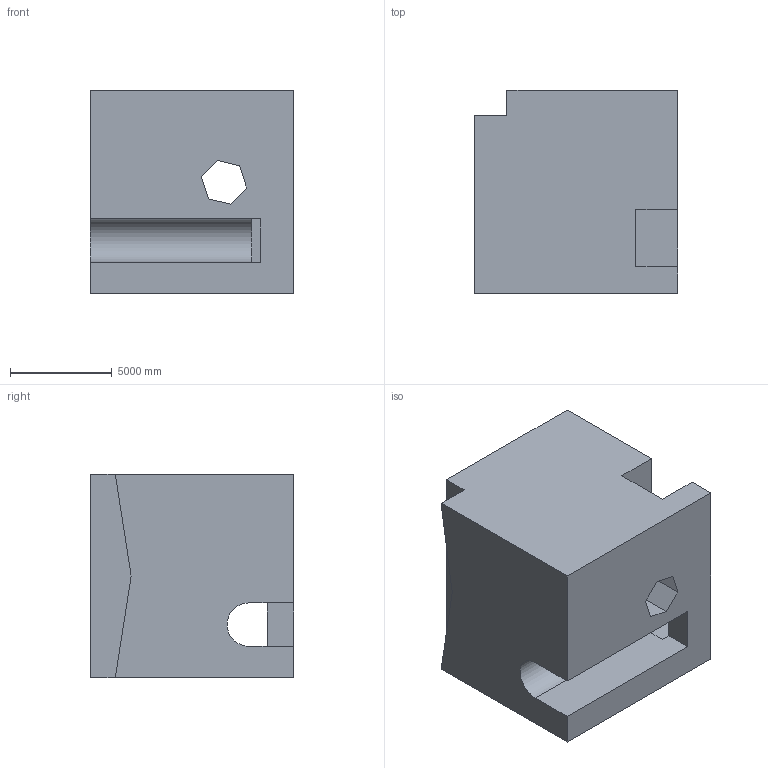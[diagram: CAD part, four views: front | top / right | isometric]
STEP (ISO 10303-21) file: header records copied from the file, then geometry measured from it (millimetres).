
FILE_DESCRIPTION (( 'STEP AP203' ), '1' );
FILE_NAME ('1448.STEP', '2022-08-18T14:32:14', ( 'user' ), ( '' ), 'SwSTEP 2.0', 'SolidWorks 2021', '' );
FILE_SCHEMA (( 'CONFIG_CONTROL_DESIGN' ));
Length unit declared in the file: centimetre
Products named in the file (1): 1448
Bounding box: 10000 x 10000 x 10000 mm (x, y, z)
Volume: 826190578436.9 mm3; surface area: 753886001.4 mm2
Topology: 1 solids, 1 shells, 29 faces, 81 edges, 54 vertices
Faces by surface type: plane 24, cylinder 5
Entity records: 1010 total; most frequent: CARTESIAN_POINT 165, ORIENTED_EDGE 162, DIRECTION 151, EDGE_CURVE 81, LINE 71, VECTOR 71, VERTEX_POINT 54, AXIS2_PLACEMENT_3D 40
